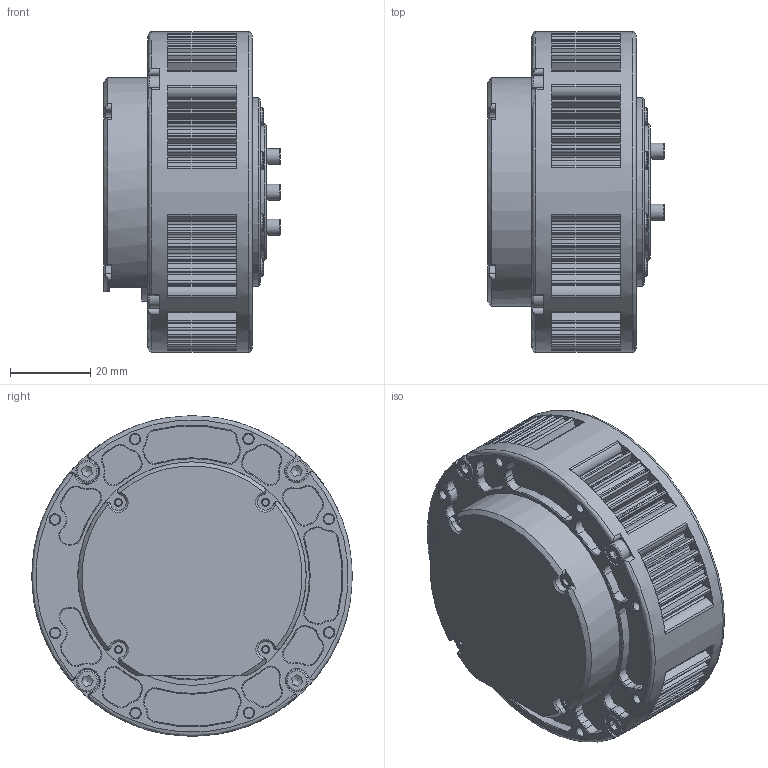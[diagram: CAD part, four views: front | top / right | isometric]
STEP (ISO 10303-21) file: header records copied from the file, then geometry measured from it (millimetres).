
FILE_DESCRIPTION(/* description */ (''),/* implementation_level */ '2;1');
FILE_NAME(/* name */ '',/* time_stamp */ '2024-03-13T14:56:39+08:00',/* author */ ('Admin'),/* organization */ (''),/* preprocessor_version */ 'ST-DEVELOPER v19.2',/* originating_system */ 'Autodesk Inventor 2024',/* authorisation */ '');
FILE_SCHEMA (('CONFIG_CONTROL_DESIGN'));
Length unit declared in the file: millimetre
Products named in the file (3): 6010-8安装尺寸图-驱动盖可拆; 6010-8_简化_1; V5驱动盖
Assembly tree (2 placements, depth 2):
  6010-8安装尺寸图-驱动盖可拆
    6010-8_简化_1
    V5驱动盖
Bounding box: 44 x 80 x 80 mm (x, y, z)
Volume: 112156.1 mm3; surface area: 41749.9 mm2
Topology: 2 solids, 2 shells, 1377 faces, 3549 edges, 2293 vertices
Faces by surface type: cylinder 602, plane 501, cone 235, torus 27, bspline 12
Full cylindrical faces by diameter (mm): 1.567 x12, 2 x4, 2.459 x25, 4 x3, 4.5 x8, 5.5 x4, 6 x1, 10 x1, 12 x1, 13 x1, 18 x1, 20 x1, 24 x1, 34 x1, 47 x1, 54.6 x1, 62.9 x1, 67 x1, 80 x1
Entity records: 43305 total; most frequent: CARTESIAN_POINT 8365, DIRECTION 7815, ORIENTED_EDGE 7082, EDGE_CURVE 3541, AXIS2_PLACEMENT_3D 3056, VERTEX_POINT 2293, LINE 1703, VECTOR 1703
